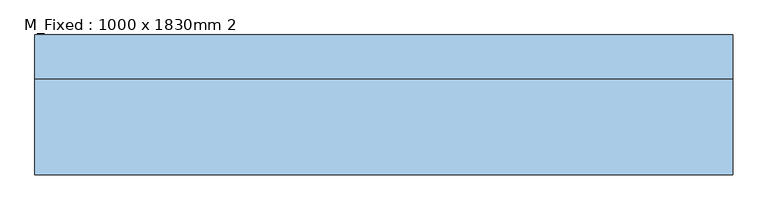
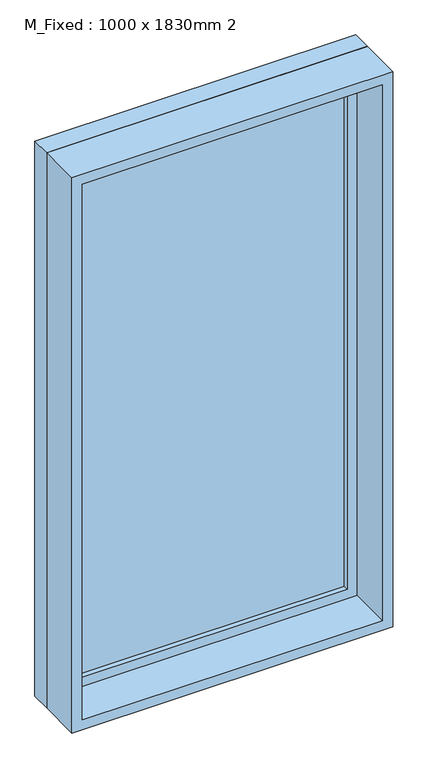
"""IFC4 building model written with IfcOpenShell, lengths in millimetres: window geometry, M_Fixed : 1000 x 1830mm 2."""

from ifc_helpers import new_model, si_unit, frame, origin, place, context, project, spatial, polyline, outline, extrude, source, transform, mapped, element, save


def m_fixed_1000_x_1830mm_2_3397196e(model_context):
    return source(origin(), model_context, "Body", "SweptSolid", [
        extrude(outline(polyline([(-437.0, 78.0), (437.0, 78.0), (437.0, 66.0), (-437.0, 66.0), (-437.0, 78.0)])), frame((0.0, 0.0, 368.0), z_axis=(0.0, 0.0, 1.0), x_axis=(1.0, 0.0, 0.0)), (0.0, 0.0, 1.0), 1704.0),
        extrude(outline(polyline([(2116.0, -481.0), (324.0, -481.0), (324.0, 481.0), (2116.0, 481.0), (2116.0, -481.0)]), holes=[polyline([(2072.0, -437.0), (2072.0, 437.0), (368.0, 437.0), (368.0, -437.0), (2072.0, -437.0)])]), frame((0.0, 50.0, 0.0), z_axis=(0.0, 1.0, 0.0), x_axis=(0.0, 0.0, 1.0)), (0.0, 0.0, 1.0), 44.0),
        extrude(outline(polyline([(2135.0, -500.0), (305.0, -500.0), (305.0, 500.0), (2135.0, 500.0), (2135.0, -500.0)]), holes=[polyline([(2116.0, -481.0), (2116.0, 481.0), (324.0, 481.0), (324.0, -481.0), (2116.0, -481.0)])]), frame((0.0, 50.0, 0.0), z_axis=(0.0, 1.0, 0.0), x_axis=(0.0, 0.0, 1.0)), (0.0, 0.0, 1.0), 63.0),
        extrude(outline(polyline([(2135.0, -500.0), (305.0, -500.0), (305.0, 500.0), (2135.0, 500.0), (2135.0, -500.0)]), holes=[polyline([(2103.0, -468.0), (2103.0, 468.0), (337.0, 468.0), (337.0, -468.0), (2103.0, -468.0)])]), frame((0.0, -87.0, 0.0), z_axis=(0.0, 1.0, 0.0), x_axis=(0.0, 0.0, 1.0)), (0.0, 0.0, 1.0), 137.0),
    ])


if __name__ == "__main__":
    model = new_model("IFC4")
    model_context = context("Model", 3, world=origin())
    ifc_project = project(units=[si_unit("LENGTHUNIT", "METRE", prefix="MILLI")], contexts=[model_context])
    site = spatial("IfcSite", under=ifc_project)
    building = spatial("IfcBuilding", under=site)
    placement = place(None, origin())
    m_fixed_1000_x_1830mm_2_shape = m_fixed_1000_x_1830mm_2_3397196e(model_context)
    element("IfcWindow", 1, ObjectType="M_Fixed : 1000 x 1830mm 2", at=placement, inside=building, context=model_context, shape_type="MappedRepresentation", body=[
        mapped(m_fixed_1000_x_1830mm_2_shape, transform((0.0, 0.0, 0.0), x_axis=(1.0, 0.0, 0.0), y_axis=(0.0, 1.0, 0.0), z_axis=(0.0, 0.0, 1.0))),
    ])
    save(model, "model.ifc")
